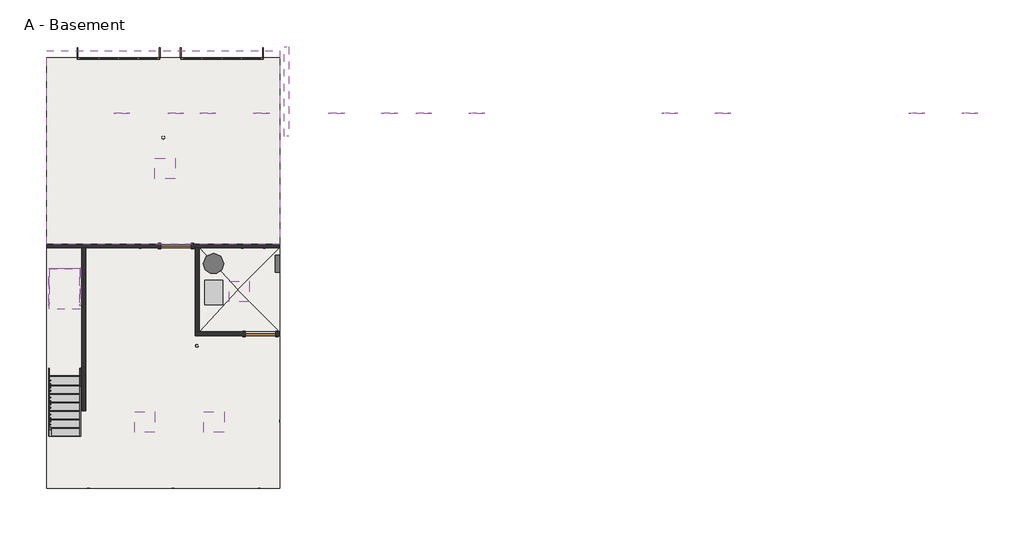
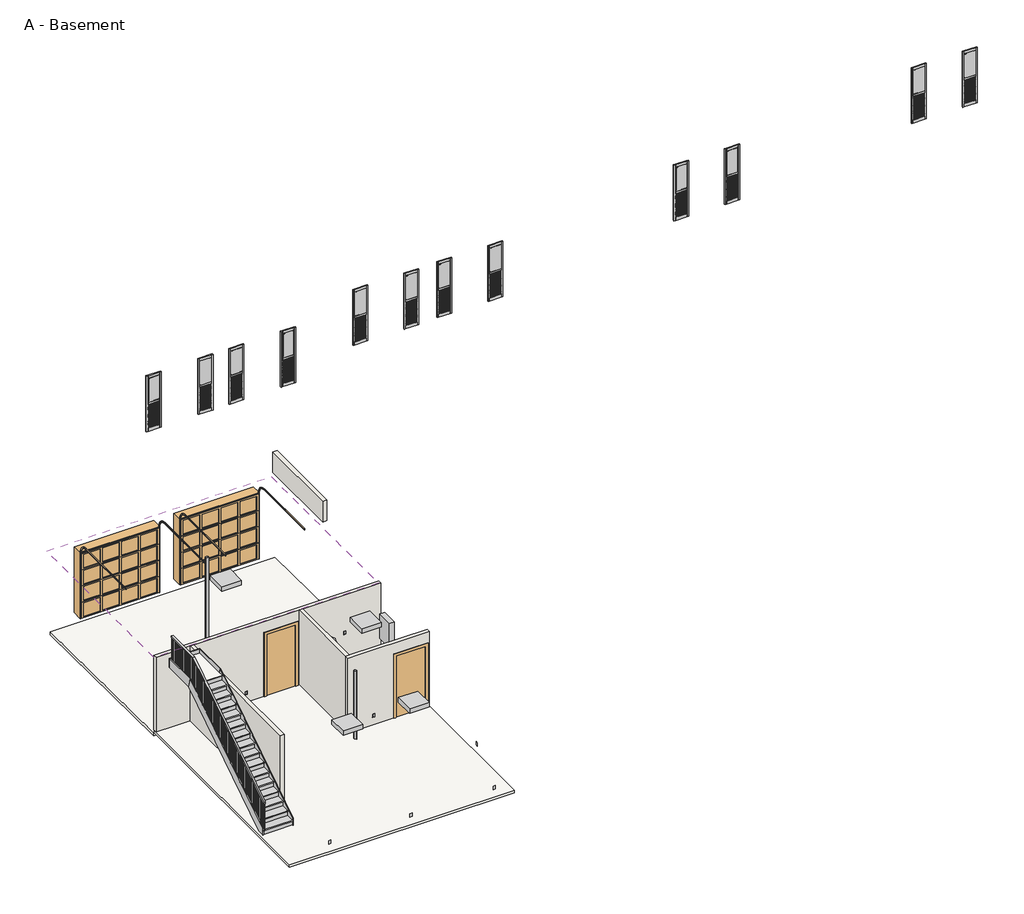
# One storey: 25 proxies, 6 columns, 5 members, 5 slabs, 5 walls, 4 doors, 4 light fixtures, 1 covering, 3 other elements.
"""IFC4 building model written with IfcOpenShell, lengths in millimetres."""

from ifc_helpers import new_model, si_unit, frame, origin, place, context, project, spatial, polyline, outline, extrude, faceted_brep, transform, mapped, element, save
from components import generic_models_8ffc68b5, generic_models_32b2cebe, proxy_a3865931, lighting_and_appliance_panelboard_208v_mlo_225_a_45642533, outlet_duplex_single_5e711ab5, outlet_duplex_single_71d20ff3, outlet_duplex_single_3b77d616, outlet_gfi_single_f183cc38, pipe_column_pipe3std_b63ba2ea, pipe_column_pipe3std_e1548283, pipe_column_pipe3std_db27e34c, pipe_column_pipe3std_637a24f6, door_7a04b6f2, door_5e62189b, water_heater_water_heater_e0cc5f81, plain_surface_lighting_fixture_2x2_120_4620b5b5, slab_c4e9b2b2, non_monolithic_landing_577eea64, stair_flight_320c33c6

model = new_model("IFC4")

# Units and contexts
model_context = context("Model", 3, world=origin())
ifc_project = project(units=[si_unit("LENGTHUNIT", "METRE", prefix="MILLI")], contexts=[model_context])

# Site, building, storey
site = spatial("IfcSite", under=ifc_project)
building = spatial("IfcBuilding", under=site)
storey = spatial("IfcBuildingStorey", under=building, Name="A - Basement", Elevation=-2787.65)

# Proxies
placement = place(None, origin())
generic_models_shape = generic_models_8ffc68b5(model_context)
generic_models_2_shape = generic_models_32b2cebe(model_context)
element("IfcBuildingElementProxy", 1, Name="rfa_clas_euro : rfa_clas_euro", ObjectType="rfa_clas_euro : rfa_clas_euro", at=placement, inside=storey, context=model_context, shape_type="MappedRepresentation", body=[
    mapped(generic_models_shape, transform((-2515.7129486, 4173.8960538, 4543.7593444), x_axis=(-1.0, 0.0, 0.0), y_axis=(0.0, 0.0, 1.0), z_axis=(0.0, 1.0, 0.0))),
    mapped(generic_models_2_shape, transform((-2515.7129486, 4173.8960538, 4543.7593444), x_axis=(-1.0, 0.0, 0.0), y_axis=(0.0, 0.0, 1.0), z_axis=(0.0, 1.0, 0.0))),
])
element("IfcBuildingElementProxy", 2, Name="rfa_clas_euro : rfa_clas_euro", ObjectType="rfa_clas_euro : rfa_clas_euro", at=placement, inside=storey, context=model_context, shape_type="MappedRepresentation", body=[
    mapped(generic_models_shape, transform((-925.0379486, 4173.8960538, 4523.2310822), x_axis=(-1.0, 0.0, 0.0), y_axis=(0.0, 0.0, 1.0), z_axis=(0.0, 1.0, 0.0))),
    mapped(generic_models_2_shape, transform((-925.0379486, 4173.8960538, 4523.2310822), x_axis=(-1.0, 0.0, 0.0), y_axis=(0.0, 0.0, 1.0), z_axis=(0.0, 1.0, 0.0))),
])
element("IfcBuildingElementProxy", 3, Name="rfa_clas_euro : rfa_clas_euro", ObjectType="rfa_clas_euro : rfa_clas_euro", at=placement, inside=storey, context=model_context, shape_type="MappedRepresentation", body=[
    mapped(generic_models_shape, transform((98.6777665, 4173.8960538, 4543.7593444), x_axis=(-1.0, 0.0, 0.0), y_axis=(0.0, 0.0, 1.0), z_axis=(0.0, 1.0, 0.0))),
    mapped(generic_models_2_shape, transform((98.6777665, 4173.8960538, 4543.7593444), x_axis=(-1.0, 0.0, 0.0), y_axis=(0.0, 0.0, 1.0), z_axis=(0.0, 1.0, 0.0))),
])
element("IfcBuildingElementProxy", 4, Name="rfa_clas_euro : rfa_clas_euro", ObjectType="rfa_clas_euro : rfa_clas_euro", at=placement, inside=storey, context=model_context, shape_type="MappedRepresentation", body=[
    mapped(generic_models_shape, transform((1689.3527665, 4173.8960538, 4523.2310822), x_axis=(-1.0, 0.0, 0.0), y_axis=(0.0, 0.0, 1.0), z_axis=(0.0, 1.0, 0.0))),
    mapped(generic_models_2_shape, transform((1689.3527665, 4173.8960538, 4523.2310822), x_axis=(-1.0, 0.0, 0.0), y_axis=(0.0, 0.0, 1.0), z_axis=(0.0, 1.0, 0.0))),
])
element("IfcBuildingElementProxy", 5, Name="rfa_clas_euro : rfa_clas_euro", ObjectType="rfa_clas_euro : rfa_clas_euro", at=placement, inside=storey, context=model_context, shape_type="MappedRepresentation", body=[
    mapped(generic_models_shape, transform((14880.573124, 4173.8960538, 5762.9593444), x_axis=(-1.0, 0.0, 0.0), y_axis=(0.0, 0.0, 1.0), z_axis=(0.0, 1.0, 0.0))),
    mapped(generic_models_2_shape, transform((14880.573124, 4173.8960538, 5762.9593444), x_axis=(-1.0, 0.0, 0.0), y_axis=(0.0, 0.0, 1.0), z_axis=(0.0, 1.0, 0.0))),
])
element("IfcBuildingElementProxy", 6, Name="rfa_clas_euro : rfa_clas_euro", ObjectType="rfa_clas_euro : rfa_clas_euro", at=placement, inside=storey, context=model_context, shape_type="MappedRepresentation", body=[
    mapped(generic_models_shape, transform((16471.248124, 4173.8960538, 5742.4310822), x_axis=(-1.0, 0.0, 0.0), y_axis=(0.0, 0.0, 1.0), z_axis=(0.0, 1.0, 0.0))),
    mapped(generic_models_2_shape, transform((16471.248124, 4173.8960538, 5742.4310822), x_axis=(-1.0, 0.0, 0.0), y_axis=(0.0, 0.0, 1.0), z_axis=(0.0, 1.0, 0.0))),
])
element("IfcBuildingElementProxy", 7, Name="rfa_clas_euro : rfa_clas_euro", ObjectType="rfa_clas_euro : rfa_clas_euro", at=placement, inside=storey, context=model_context, shape_type="MappedRepresentation", body=[
    mapped(generic_models_shape, transform((7476.473124, 4173.8960538, 5153.3593444), x_axis=(-1.0, 0.0, 0.0), y_axis=(0.0, 0.0, 1.0), z_axis=(0.0, 1.0, 0.0))),
    mapped(generic_models_2_shape, transform((7476.473124, 4173.8960538, 5153.3593444), x_axis=(-1.0, 0.0, 0.0), y_axis=(0.0, 0.0, 1.0), z_axis=(0.0, 1.0, 0.0))),
])
element("IfcBuildingElementProxy", 8, Name="rfa_clas_euro : rfa_clas_euro", ObjectType="rfa_clas_euro : rfa_clas_euro", at=placement, inside=storey, context=model_context, shape_type="MappedRepresentation", body=[
    mapped(generic_models_shape, transform((9067.148124, 4173.8960538, 5132.8310822), x_axis=(-1.0, 0.0, 0.0), y_axis=(0.0, 0.0, 1.0), z_axis=(0.0, 1.0, 0.0))),
    mapped(generic_models_2_shape, transform((9067.148124, 4173.8960538, 5132.8310822), x_axis=(-1.0, 0.0, 0.0), y_axis=(0.0, 0.0, 1.0), z_axis=(0.0, 1.0, 0.0))),
])
element("IfcBuildingElementProxy", 9, Name="rfa_clas_euro : rfa_clas_euro", ObjectType="rfa_clas_euro : rfa_clas_euro", at=placement, inside=storey, context=model_context, shape_type="MappedRepresentation", body=[
    mapped(generic_models_shape, transform((-8954.6129486, 4173.8960538, 3956.05), x_axis=(-1.0, 0.0, 0.0), y_axis=(0.0, 0.0, 1.0), z_axis=(0.0, 1.0, 0.0))),
    mapped(generic_models_2_shape, transform((-8954.6129486, 4173.8960538, 3956.05), x_axis=(-1.0, 0.0, 0.0), y_axis=(0.0, 0.0, 1.0), z_axis=(0.0, 1.0, 0.0))),
])
element("IfcBuildingElementProxy", 10, Name="rfa_clas_euro : rfa_clas_euro", ObjectType="rfa_clas_euro : rfa_clas_euro", at=placement, inside=storey, context=model_context, shape_type="MappedRepresentation", body=[
    mapped(generic_models_shape, transform((-7338.5379486, 4173.8960538, 3956.05), x_axis=(-1.0, 0.0, 0.0), y_axis=(0.0, 0.0, 1.0), z_axis=(0.0, 1.0, 0.0))),
    mapped(generic_models_2_shape, transform((-7338.5379486, 4173.8960538, 3956.05), x_axis=(-1.0, 0.0, 0.0), y_axis=(0.0, 0.0, 1.0), z_axis=(0.0, 1.0, 0.0))),
])
element("IfcBuildingElementProxy", 11, Name="rfa_clas_euro : rfa_clas_euro", ObjectType="rfa_clas_euro : rfa_clas_euro", at=placement, inside=storey, context=model_context, shape_type="MappedRepresentation", body=[
    mapped(generic_models_shape, transform((-6376.5129486, 4173.8960538, 3956.05), x_axis=(-1.0, 0.0, 0.0), y_axis=(0.0, 0.0, 1.0), z_axis=(0.0, 1.0, 0.0))),
    mapped(generic_models_2_shape, transform((-6376.5129486, 4173.8960538, 3956.05), x_axis=(-1.0, 0.0, 0.0), y_axis=(0.0, 0.0, 1.0), z_axis=(0.0, 1.0, 0.0))),
])
element("IfcBuildingElementProxy", 12, Name="rfa_clas_euro : rfa_clas_euro", ObjectType="rfa_clas_euro : rfa_clas_euro", at=placement, inside=storey, context=model_context, shape_type="MappedRepresentation", body=[
    mapped(generic_models_shape, transform((-4763.6129486, 4173.8960538, 3956.05), x_axis=(-1.0, 0.0, 0.0), y_axis=(0.0, 0.0, 1.0), z_axis=(0.0, 1.0, 0.0))),
    mapped(generic_models_2_shape, transform((-4763.6129486, 4173.8960538, 3956.05), x_axis=(-1.0, 0.0, 0.0), y_axis=(0.0, 0.0, 1.0), z_axis=(0.0, 1.0, 0.0))),
])
proxy_shape = proxy_a3865931(model_context)
element("IfcBuildingElementProxy", 13, Name="Furnace : 40\" x 21\" x 28\"", ObjectType="Furnace : 40\" x 21\" x 28\"", at=placement, inside=storey, context=model_context, shape_type="MappedRepresentation", body=[
    mapped(proxy_shape, transform((-6192.3629486, -1182.3289462, -2792.5085527), x_axis=(1.0, 0.0, 0.0), y_axis=(0.0, 1.0, 0.0), z_axis=(0.0, 0.0, 1.0))),
])
lighting_and_appliance_panelboard_208v_mlo_225_a_shape = lighting_and_appliance_panelboard_208v_mlo_225_a_45642533(model_context)
element("IfcBuildingElementProxy", 14, Name="Lighting and Appliance Panelboard - 208V MLO : 225 A", ObjectType="Lighting and Appliance Panelboard - 208V MLO : 225 A", at=placement, inside=storey, context=model_context, shape_type="MappedRepresentation", body=[
    mapped(lighting_and_appliance_panelboard_208v_mlo_225_a_shape, transform((-4211.1629486, -318.7289462, -1568.45), x_axis=(0.0, -1.0, 0.0), y_axis=(0.0, 0.0, -1.0), z_axis=(1.0, 0.0, 0.0))),
])
outlet_duplex_single_shape = outlet_duplex_single_5e711ab5(model_context)
element("IfcBuildingElementProxy", 15, Name="Outlet-Duplex : Single", ObjectType="Outlet-Duplex : Single", at=placement, inside=storey, context=model_context, shape_type="MappedRepresentation", body=[
    mapped(outlet_duplex_single_shape, transform((-10091.2629486, -3852.5039462, -2787.65), x_axis=(0.0, -1.0, 0.0), y_axis=(1.0, 0.0, 0.0), z_axis=(0.0, 0.0, 1.0))),
])
element("IfcBuildingElementProxy", 16, Name="Outlet-Duplex : Single", ObjectType="Outlet-Duplex : Single", at=placement, inside=storey, context=model_context, shape_type="MappedRepresentation", body=[
    mapped(outlet_duplex_single_shape, transform((-10091.2629486, -1547.4539462, -2787.65), x_axis=(0.0, -1.0, 0.0), y_axis=(1.0, 0.0, 0.0), z_axis=(0.0, 0.0, 1.0))),
])
element("IfcBuildingElementProxy", 17, Name="Outlet-Duplex : Single", ObjectType="Outlet-Duplex : Single", at=placement, inside=storey, context=model_context, shape_type="MappedRepresentation", body=[
    mapped(outlet_duplex_single_shape, transform((-5951.0629486, -2420.5789462, -2787.65), x_axis=(-1.0, 0.0, 0.0), y_axis=(0.0, -1.0, 0.0), z_axis=(0.0, 0.0, 1.0))),
])
element("IfcBuildingElementProxy", 18, Name="Outlet-Duplex : Single", ObjectType="Outlet-Duplex : Single", at=placement, inside=storey, context=model_context, shape_type="MappedRepresentation", body=[
    mapped(outlet_duplex_single_shape, transform((-8398.9879486, 208.3210538, -2787.65), x_axis=(-1.0, 0.0, 0.0), y_axis=(0.0, -1.0, 0.0), z_axis=(0.0, 0.0, 1.0))),
])
outlet_duplex_single_2_shape = outlet_duplex_single_71d20ff3(model_context)
element("IfcBuildingElementProxy", 19, Name="Outlet-Duplex : Single", ObjectType="Outlet-Duplex : Single", at=placement, inside=storey, context=model_context, shape_type="MappedRepresentation", body=[
    mapped(outlet_duplex_single_2_shape, transform((-9954.7379486, -7202.1289462, -2787.65), x_axis=(1.0, 0.0, 0.0), y_axis=(0.0, 1.0, 0.0), z_axis=(0.0, 0.0, 1.0))),
])
element("IfcBuildingElementProxy", 20, Name="Outlet-Duplex : Single", ObjectType="Outlet-Duplex : Single", at=placement, inside=storey, context=model_context, shape_type="MappedRepresentation", body=[
    mapped(outlet_duplex_single_2_shape, transform((-7421.0879486, -7202.1289462, -2787.65), x_axis=(1.0, 0.0, 0.0), y_axis=(0.0, 1.0, 0.0), z_axis=(0.0, 0.0, 1.0))),
])
element("IfcBuildingElementProxy", 21, Name="Outlet-Duplex : Single", ObjectType="Outlet-Duplex : Single", at=placement, inside=storey, context=model_context, shape_type="MappedRepresentation", body=[
    mapped(outlet_duplex_single_2_shape, transform((-4830.2879486, -7202.1289462, -2787.65), x_axis=(1.0, 0.0, 0.0), y_axis=(0.0, 1.0, 0.0), z_axis=(0.0, 0.0, 1.0))),
])
outlet_duplex_single_3_shape = outlet_duplex_single_3b77d616(model_context)
element("IfcBuildingElementProxy", 22, Name="Outlet-Duplex : Single", ObjectType="Outlet-Duplex : Single", at=placement, inside=storey, context=model_context, shape_type="MappedRepresentation", body=[
    mapped(outlet_duplex_single_3_shape, transform((-4084.1629486, -5033.6039462, -2787.65), x_axis=(0.0, 1.0, 0.0), y_axis=(-1.0, 0.0, 0.0), z_axis=(0.0, 0.0, 1.0))),
])
outlet_gfi_single_shape = outlet_gfi_single_f183cc38(model_context)
element("IfcBuildingElementProxy", 23, Name="Outlet-GFI : Single", ObjectType="Outlet-GFI : Single", at=placement, inside=storey, context=model_context, shape_type="MappedRepresentation", body=[
    mapped(outlet_gfi_single_shape, transform((-5338.2879486, 208.3210538, -2787.65), x_axis=(-1.0, 0.0, 0.0), y_axis=(0.0, -1.0, 0.0), z_axis=(0.0, 0.0, 1.0))),
])
element("IfcBuildingElementProxy", 24, Name="Outlet-GFI : Single", ObjectType="Outlet-GFI : Single", at=placement, inside=storey, context=model_context, shape_type="MappedRepresentation", body=[
    mapped(outlet_gfi_single_shape, transform((-4677.8879486, 208.3210538, -2787.65), x_axis=(-1.0, 0.0, 0.0), y_axis=(0.0, -1.0, 0.0), z_axis=(0.0, 0.0, 1.0))),
])
element("IfcBuildingElementProxy", 25, Name="Outlet-GFI : Single", ObjectType="Outlet-GFI : Single", at=placement, inside=storey, context=model_context, shape_type="MappedRepresentation", body=[
    mapped(outlet_gfi_single_shape, transform((-8703.7879486, 208.3210538, -2787.65), x_axis=(1.0, 0.0, 0.0), y_axis=(0.0, 1.0, 0.0), z_axis=(0.0, 0.0, 1.0))),
])

# Columns
pipe_column_pipe3std_shape = pipe_column_pipe3std_b63ba2ea(model_context)
element("IfcColumn", 26, ObjectType="Pipe-Column : Pipe3STD", at=placement, inside=storey, context=model_context, shape_type="MappedRepresentation", body=[
    mapped(pipe_column_pipe3std_shape, transform((-10091.2629486, -4154.1289462, 0.0), x_axis=(1.0, 0.0, 0.0), y_axis=(0.0, 1.0, 0.0), z_axis=(0.0, 0.0, 1.0))),
])
pipe_column_pipe3std_2_shape = pipe_column_pipe3std_e1548283(model_context)
element("IfcColumn", 27, ObjectType="Pipe-Column : Pipe3STD", at=placement, inside=storey, context=model_context, shape_type="MappedRepresentation", body=[
    mapped(pipe_column_pipe3std_2_shape, transform((-6700.3629486, -2782.5289462, 0.0), x_axis=(1.0, 0.0, 0.0), y_axis=(0.0, 1.0, 0.0), z_axis=(0.0, 0.0, 1.0))),
])
element("IfcColumn", 28, ObjectType="Pipe-Column : Pipe3STD", at=placement, inside=storey, context=model_context, shape_type="MappedRepresentation", body=[
    mapped(pipe_column_pipe3std_2_shape, transform((-10091.2629486, -2782.5289462, 0.0), x_axis=(1.0, 0.0, 0.0), y_axis=(0.0, 1.0, 0.0), z_axis=(0.0, 0.0, 1.0))),
])
pipe_column_pipe3std_3_shape = pipe_column_pipe3std_db27e34c(model_context)
element("IfcColumn", 29, ObjectType="Pipe-Column : Pipe3STD", at=placement, inside=storey, context=model_context, shape_type="MappedRepresentation", body=[
    mapped(pipe_column_pipe3std_3_shape, transform((-10091.2629486, 201.9710538, 0.0), x_axis=(1.0, 0.0, 0.0), y_axis=(0.0, 1.0, 0.0), z_axis=(0.0, 0.0, 1.0))),
])
element("IfcColumn", 30, ObjectType="Pipe-Column : Pipe3STD", at=placement, inside=storey, context=model_context, shape_type="MappedRepresentation", body=[
    mapped(pipe_column_pipe3std_3_shape, transform((-6700.3629486, 201.9710538, 0.0), x_axis=(1.0, 0.0, 0.0), y_axis=(0.0, 1.0, 0.0), z_axis=(0.0, 0.0, 1.0))),
])
pipe_column_pipe3std_4_shape = pipe_column_pipe3std_637a24f6(model_context)
element("IfcColumn", 31, ObjectType="Pipe-Column : Pipe3STD", at=placement, inside=storey, context=model_context, shape_type="MappedRepresentation", body=[
    mapped(pipe_column_pipe3std_4_shape, transform((-7710.0129486, 3462.6960538, 0.0), x_axis=(1.0, 0.0, 0.0), y_axis=(0.0, 1.0, 0.0), z_axis=(0.0, 0.0, 1.0))),
])

# Covering
element("IfcCovering", 32, ObjectType="GWB on Furring", at=placement, inside=storey, context=model_context, shape_type="SweptSolid", body=[
    extrude(outline(polyline([(-11208.8629486, 265.4710538), (-11208.8629486, 6056.6710538), (-4211.1629486, 6056.6710538), (-4211.1629486, 265.4710538), (-11208.8629486, 265.4710538)])), frame((0.0, 0.0, -400.05), z_axis=(0.0, 0.0, 1.0), x_axis=(1.0, 0.0, 0.0)), (0.0, 0.0, 1.0), 31.75),
])

# Doors
door_shape = door_7a04b6f2(model_context)
element("IfcDoor", 33, ObjectType="Door-Garage-Embossed_Panel : 96\" x 84\"", at=placement, inside=storey, context=model_context, shape_type="MappedRepresentation", body=[
    mapped(door_shape, transform((-9049.8629486, 6009.0460538, -2813.05), x_axis=(1.0, 0.0, 0.0), y_axis=(0.0, 1.0, 0.0), z_axis=(0.0, 0.0, 1.0))),
])
element("IfcDoor", 34, ObjectType="Door-Garage-Embossed_Panel : 96\" x 84\"", at=placement, inside=storey, context=model_context, shape_type="MappedRepresentation", body=[
    mapped(door_shape, transform((-5951.0629486, 6009.0460538, -2787.65), x_axis=(1.0, 0.0, 0.0), y_axis=(0.0, 1.0, 0.0), z_axis=(0.0, 0.0, 1.0))),
])
door_2_shape = door_5e62189b(model_context)
element("IfcDoor", 35, ObjectType="Single-Flush : 36\" x 80\"", at=placement, inside=storey, context=model_context, shape_type="MappedRepresentation", body=[
    mapped(door_2_shape, transform((-7322.6629486, 208.3210538, -2787.65), x_axis=(1.0, 0.0, 0.0), y_axis=(0.0, 1.0, 0.0), z_axis=(0.0, 0.0, 1.0))),
])
element("IfcDoor", 36, ObjectType="Single-Flush : 36\" x 80\"", at=placement, inside=storey, context=model_context, shape_type="MappedRepresentation", body=[
    mapped(door_2_shape, transform((-4795.3629486, -2420.5789462, -2787.65), x_axis=(1.0, 0.0, 0.0), y_axis=(0.0, 1.0, 0.0), z_axis=(0.0, 0.0, 1.0))),
])

# Flow terminal
water_heater_water_heater_shape = water_heater_water_heater_e0cc5f81(model_context)
element("IfcFlowTerminal", 37, ObjectType="Water Heater : Water Heater", at=placement, inside=storey, context=model_context, shape_type="MappedRepresentation", body=[
    mapped(water_heater_water_heater_shape, transform((-6200.7310135, -318.7289462, -2792.4170866), x_axis=(1.0, 0.0, 0.0), y_axis=(0.0, 1.0, 0.0), z_axis=(0.0, 0.0, 1.0))),
])

# Light fixtures
plain_surface_lighting_fixture_2x2_120_shape = plain_surface_lighting_fixture_2x2_120_4620b5b5(model_context)
element("IfcLightFixture", 38, ObjectType="Plain Surface Lighting Fixture : 2x2 - 120", at=placement, inside=storey, context=model_context, shape_type="MappedRepresentation", body=[
    mapped(plain_surface_lighting_fixture_2x2_120_shape, transform((-7628.4108132, -4634.8076457, -320.675), x_axis=(1.0, 0.0, 0.0), y_axis=(0.0, -1.0, 0.0), z_axis=(0.0, 0.0, -1.0))),
])
element("IfcLightFixture", 39, ObjectType="Plain Surface Lighting Fixture : 2x2 - 120", at=placement, inside=storey, context=model_context, shape_type="MappedRepresentation", body=[
    mapped(plain_surface_lighting_fixture_2x2_120_shape, transform((-5558.3108132, -4634.8076457, -320.675), x_axis=(1.0, 0.0, 0.0), y_axis=(0.0, -1.0, 0.0), z_axis=(0.0, 0.0, -1.0))),
])
element("IfcLightFixture", 40, ObjectType="Plain Surface Lighting Fixture : 2x2 - 120", at=placement, inside=storey, context=model_context, shape_type="MappedRepresentation", body=[
    mapped(plain_surface_lighting_fixture_2x2_120_shape, transform((-4796.3108132, -723.2076457, -320.675), x_axis=(1.0, 0.0, 0.0), y_axis=(0.0, -1.0, 0.0), z_axis=(0.0, 0.0, -1.0))),
])
element("IfcLightFixture", 41, ObjectType="Plain Surface Lighting Fixture : 2x2 - 120", at=placement, inside=storey, context=model_context, shape_type="MappedRepresentation", body=[
    mapped(plain_surface_lighting_fixture_2x2_120_shape, transform((-7018.8108132, 2972.4923543, -400.05), x_axis=(1.0, 0.0, 0.0), y_axis=(0.0, -1.0, 0.0), z_axis=(0.0, 0.0, -1.0))),
])

# Members
element("IfcMember", 42, ObjectType="Stringer - Paint - 3/4\" Width", at=placement, inside=storey, context=model_context, shape_type="SweptSolid", body=[
    extrude(outline(polyline([(-5500.3289462, -2787.65), (-5500.3289462, -2554.2832083), (-1580.7789382, -12.7), (-1490.6062153, -317.5), (-5299.9941671, -2787.65), (-5500.3289462, -2787.65)])), frame((-11142.1879486, 0.0, 0.0), z_axis=(1.0, 0.0, 0.0), x_axis=(0.0, 1.0, 0.0)), (0.0, 0.0, 1.0), 19.05),
])
element("IfcMember", 43, ObjectType="Stringer - Paint - 3/4\" Width", at=placement, inside=storey, context=model_context, shape_type="SweptSolid", body=[
    extrude(outline(polyline([(-5500.3289462, -2787.65), (-5500.3289462, -2554.2832083), (-1580.7789382, -12.7), (-1490.6062153, -317.5), (-5299.9941671, -2787.65), (-5500.3289462, -2787.65)])), frame((-10208.7379486, 0.0, 0.0), z_axis=(1.0, 0.0, 0.0), x_axis=(0.0, 1.0, 0.0)), (0.0, 0.0, 1.0), 19.05),
])
element("IfcMember", 44, ObjectType="Stringer - Paint - 3/4\" Width", at=placement, inside=storey, context=model_context, shape_type="SweptSolid", body=[
    extrude(outline(polyline([(-10189.6879486, -452.0789462), (-10208.7379486, -471.1289462), (-11123.1379486, -471.1289462), (-11142.1879486, -452.0789462), (-10189.6879486, -452.0789462)])), frame((0.0, 0.0, -317.5), z_axis=(0.0, 0.0, 1.0), x_axis=(1.0, 0.0, 0.0)), (0.0, 0.0, 1.0), 304.8),
])
element("IfcMember", 45, ObjectType="Stringer - Paint - 3/4\" Width", at=placement, inside=storey, context=model_context, shape_type="Brep", body=[
    faceted_brep([(-11123.1379486, -471.1289462, -12.7), (-11142.1879486, -452.0789462, -12.7), (-11142.1879486, -1580.7789382, -12.7), (-11123.1379486, -1580.7789382, -12.7), (-11123.1379486, -471.1289462, -317.5), (-11123.1379486, -1490.6062153, -317.5), (-11142.1879486, -452.0789462, -317.5), (-11142.1879486, -1490.6062153, -317.5)], [[[0, 1, 2, 3]], [[4, 0, 3, 5]], [[6, 4, 5, 7]], [[1, 6, 7, 2]], [[1, 0, 4, 6]], [[2, 7, 5, 3]]]),
])
element("IfcMember", 46, ObjectType="Stringer - Paint - 3/4\" Width", at=placement, inside=storey, context=model_context, shape_type="Brep", body=[
    faceted_brep([(-10208.7379486, -1580.7789382, -12.7), (-10189.6879486, -1580.7789382, -12.7), (-10189.6879486, -452.0789462, -12.7), (-10208.7379486, -471.1289462, -12.7), (-10208.7379486, -1490.6062153, -317.5), (-10208.7379486, -471.1289462, -317.5), (-10189.6879486, -1490.6062153, -317.5), (-10189.6879486, -452.0789462, -317.5)], [[[0, 1, 2, 3]], [[4, 0, 3, 5]], [[6, 4, 5, 7]], [[1, 6, 7, 2]], [[1, 0, 4, 6]], [[2, 7, 5, 3]]]),
])

# Railing
element("IfcRailing", 47, ObjectType="Handrail - Rectangular", at=placement, inside=storey, context=model_context, shape_type="SolidModel", body=[
    faceted_brep([(-11123.1379486, -531.4539462, 762.0), (-11072.3379486, -531.4539462, 762.0), (-11072.3379486, -531.4539462, 711.2), (-11123.1379486, -531.4539462, 711.2), (-11123.1379486, -1675.3001591, 711.2), (-11123.1379486, -1690.3289462, 762.0), (-11072.3379486, -1675.3001591, 711.2), (-11072.3379486, -1690.3289462, 762.0), (-11123.1379486, -5500.3289462, -1708.546875), (-11123.1379486, -5500.3289462, -1769.0921042), (-11072.3379486, -5500.3289462, -1769.0921042), (-11072.3379486, -5500.3289462, -1708.546875)], [[[0, 1, 2, 3]], [[4, 5, 0, 3]], [[6, 4, 3, 2]], [[7, 6, 2, 1]], [[5, 7, 1, 0]], [[8, 9, 10, 11]], [[9, 8, 5, 4]], [[10, 9, 4, 6]], [[11, 10, 6, 7]], [[8, 11, 7, 5]]]),
    extrude(outline(polyline([(-5459.0539462, -1742.3278464), (-5440.0039462, -1729.975112), (-5440.0039462, -2622.946875), (-5459.0539462, -2622.946875), (-5459.0539462, -1742.3278464)])), frame((-11107.2629486, 0.0, 0.0), z_axis=(1.0, 0.0, 0.0), x_axis=(0.0, 1.0, 0.0)), (0.0, 0.0, 1.0), 19.05),
    extrude(outline(polyline([(-5357.4539462, -1676.4465964), (-5338.4039462, -1664.093862), (-5338.4039462, -2622.946875), (-5357.4539462, -2622.946875), (-5357.4539462, -1676.4465964)])), frame((-11107.2629486, 0.0, 0.0), z_axis=(1.0, 0.0, 0.0), x_axis=(0.0, 1.0, 0.0)), (0.0, 0.0, 1.0), 19.05),
    extrude(outline(polyline([(-5255.8539462, -1610.5653464), (-5236.8039462, -1598.212612), (-5236.8039462, -2458.24375), (-5255.8539462, -2458.24375), (-5255.8539462, -1610.5653464)])), frame((-11107.2629486, 0.0, 0.0), z_axis=(1.0, 0.0, 0.0), x_axis=(0.0, 1.0, 0.0)), (0.0, 0.0, 1.0), 19.05),
    extrude(outline(polyline([(-5154.2539462, -1544.6840964), (-5135.2039462, -1532.331362), (-5135.2039462, -2458.24375), (-5154.2539462, -2458.24375), (-5154.2539462, -1544.6840964)])), frame((-11107.2629486, 0.0, 0.0), z_axis=(1.0, 0.0, 0.0), x_axis=(0.0, 1.0, 0.0)), (0.0, 0.0, 1.0), 19.05),
    extrude(outline(polyline([(-5052.6539462, -1478.8028464), (-5033.6039462, -1466.450112), (-5033.6039462, -2458.24375), (-5052.6539462, -2458.24375), (-5052.6539462, -1478.8028464)])), frame((-11107.2629486, 0.0, 0.0), z_axis=(1.0, 0.0, 0.0), x_axis=(0.0, 1.0, 0.0)), (0.0, 0.0, 1.0), 19.05),
    extrude(outline(polyline([(-4951.0539462, -1412.9215964), (-4932.0039462, -1400.568862), (-4932.0039462, -2293.540625), (-4951.0539462, -2293.540625), (-4951.0539462, -1412.9215964)])), frame((-11107.2629486, 0.0, 0.0), z_axis=(1.0, 0.0, 0.0), x_axis=(0.0, 1.0, 0.0)), (0.0, 0.0, 1.0), 19.05),
    extrude(outline(polyline([(-4849.4539462, -1347.0403464), (-4830.4039462, -1334.687612), (-4830.4039462, -2293.540625), (-4849.4539462, -2293.540625), (-4849.4539462, -1347.0403464)])), frame((-11107.2629486, 0.0, 0.0), z_axis=(1.0, 0.0, 0.0), x_axis=(0.0, 1.0, 0.0)), (0.0, 0.0, 1.0), 19.05),
    extrude(outline(polyline([(-4747.8539462, -1281.1590964), (-4728.8039462, -1268.806362), (-4728.8039462, -2128.8375), (-4747.8539462, -2128.8375), (-4747.8539462, -1281.1590964)])), frame((-11107.2629486, 0.0, 0.0), z_axis=(1.0, 0.0, 0.0), x_axis=(0.0, 1.0, 0.0)), (0.0, 0.0, 1.0), 19.05),
    extrude(outline(polyline([(-4646.2539462, -1215.2778464), (-4627.2039462, -1202.925112), (-4627.2039462, -2128.8375), (-4646.2539462, -2128.8375), (-4646.2539462, -1215.2778464)])), frame((-11107.2629486, 0.0, 0.0), z_axis=(1.0, 0.0, 0.0), x_axis=(0.0, 1.0, 0.0)), (0.0, 0.0, 1.0), 19.05),
    extrude(outline(polyline([(-4544.6539462, -1149.3965964), (-4525.6039462, -1137.043862), (-4525.6039462, -2128.8375), (-4544.6539462, -2128.8375), (-4544.6539462, -1149.3965964)])), frame((-11107.2629486, 0.0, 0.0), z_axis=(1.0, 0.0, 0.0), x_axis=(0.0, 1.0, 0.0)), (0.0, 0.0, 1.0), 19.05),
    extrude(outline(polyline([(-4443.0539462, -1083.5153464), (-4424.0039462, -1071.162612), (-4424.0039462, -1964.134375), (-4443.0539462, -1964.134375), (-4443.0539462, -1083.5153464)])), frame((-11107.2629486, 0.0, 0.0), z_axis=(1.0, 0.0, 0.0), x_axis=(0.0, 1.0, 0.0)), (0.0, 0.0, 1.0), 19.05),
    extrude(outline(polyline([(-4341.4539462, -1017.6340964), (-4322.4039462, -1005.281362), (-4322.4039462, -1964.134375), (-4341.4539462, -1964.134375), (-4341.4539462, -1017.6340964)])), frame((-11107.2629486, 0.0, 0.0), z_axis=(1.0, 0.0, 0.0), x_axis=(0.0, 1.0, 0.0)), (0.0, 0.0, 1.0), 19.05),
    extrude(outline(polyline([(-4239.8539462, -951.7528464), (-4220.8039462, -939.400112), (-4220.8039462, -1799.43125), (-4239.8539462, -1799.43125), (-4239.8539462, -951.7528464)])), frame((-11107.2629486, 0.0, 0.0), z_axis=(1.0, 0.0, 0.0), x_axis=(0.0, 1.0, 0.0)), (0.0, 0.0, 1.0), 19.05),
    extrude(outline(polyline([(-4138.2539462, -885.8715964), (-4119.2039462, -873.518862), (-4119.2039462, -1799.43125), (-4138.2539462, -1799.43125), (-4138.2539462, -885.8715964)])), frame((-11107.2629486, 0.0, 0.0), z_axis=(1.0, 0.0, 0.0), x_axis=(0.0, 1.0, 0.0)), (0.0, 0.0, 1.0), 19.05),
    extrude(outline(polyline([(-4036.6539462, -819.9903464), (-4017.6039462, -807.637612), (-4017.6039462, -1799.43125), (-4036.6539462, -1799.43125), (-4036.6539462, -819.9903464)])), frame((-11107.2629486, 0.0, 0.0), z_axis=(1.0, 0.0, 0.0), x_axis=(0.0, 1.0, 0.0)), (0.0, 0.0, 1.0), 19.05),
    extrude(outline(polyline([(-3935.0539462, -754.1090964), (-3916.0039462, -741.756362), (-3916.0039462, -1634.728125), (-3935.0539462, -1634.728125), (-3935.0539462, -754.1090964)])), frame((-11107.2629486, 0.0, 0.0), z_axis=(1.0, 0.0, 0.0), x_axis=(0.0, 1.0, 0.0)), (0.0, 0.0, 1.0), 19.05),
    extrude(outline(polyline([(-3833.4539462, -688.2278464), (-3814.4039462, -675.875112), (-3814.4039462, -1634.728125), (-3833.4539462, -1634.728125), (-3833.4539462, -688.2278464)])), frame((-11107.2629486, 0.0, 0.0), z_axis=(1.0, 0.0, 0.0), x_axis=(0.0, 1.0, 0.0)), (0.0, 0.0, 1.0), 19.05),
    extrude(outline(polyline([(-3731.8539462, -622.3465964), (-3712.8039462, -609.993862), (-3712.8039462, -1470.025), (-3731.8539462, -1470.025), (-3731.8539462, -622.3465964)])), frame((-11107.2629486, 0.0, 0.0), z_axis=(1.0, 0.0, 0.0), x_axis=(0.0, 1.0, 0.0)), (0.0, 0.0, 1.0), 19.05),
    extrude(outline(polyline([(-3630.2539462, -556.4653464), (-3611.2039462, -544.112612), (-3611.2039462, -1470.025), (-3630.2539462, -1470.025), (-3630.2539462, -556.4653464)])), frame((-11107.2629486, 0.0, 0.0), z_axis=(1.0, 0.0, 0.0), x_axis=(0.0, 1.0, 0.0)), (0.0, 0.0, 1.0), 19.05),
    extrude(outline(polyline([(-3528.6539462, -490.5840964), (-3509.6039462, -478.231362), (-3509.6039462, -1470.025), (-3528.6539462, -1470.025), (-3528.6539462, -490.5840964)])), frame((-11107.2629486, 0.0, 0.0), z_axis=(1.0, 0.0, 0.0), x_axis=(0.0, 1.0, 0.0)), (0.0, 0.0, 1.0), 19.05),
    extrude(outline(polyline([(-3427.0539462, -424.7028464), (-3408.0039462, -412.350112), (-3408.0039462, -1305.321875), (-3427.0539462, -1305.321875), (-3427.0539462, -424.7028464)])), frame((-11107.2629486, 0.0, 0.0), z_axis=(1.0, 0.0, 0.0), x_axis=(0.0, 1.0, 0.0)), (0.0, 0.0, 1.0), 19.05),
    extrude(outline(polyline([(-3325.4539462, -358.8215964), (-3306.4039462, -346.468862), (-3306.4039462, -1305.321875), (-3325.4539462, -1305.321875), (-3325.4539462, -358.8215964)])), frame((-11107.2629486, 0.0, 0.0), z_axis=(1.0, 0.0, 0.0), x_axis=(0.0, 1.0, 0.0)), (0.0, 0.0, 1.0), 19.05),
    extrude(outline(polyline([(-3223.8539462, -292.9403464), (-3204.8039462, -280.587612), (-3204.8039462, -1140.61875), (-3223.8539462, -1140.61875), (-3223.8539462, -292.9403464)])), frame((-11107.2629486, 0.0, 0.0), z_axis=(1.0, 0.0, 0.0), x_axis=(0.0, 1.0, 0.0)), (0.0, 0.0, 1.0), 19.05),
    extrude(outline(polyline([(-3122.2539462, -227.0590964), (-3103.2039462, -214.706362), (-3103.2039462, -1140.61875), (-3122.2539462, -1140.61875), (-3122.2539462, -227.0590964)])), frame((-11107.2629486, 0.0, 0.0), z_axis=(1.0, 0.0, 0.0), x_axis=(0.0, 1.0, 0.0)), (0.0, 0.0, 1.0), 19.05),
    extrude(outline(polyline([(-3020.6539462, -161.1778464), (-3001.6039462, -148.825112), (-3001.6039462, -1140.61875), (-3020.6539462, -1140.61875), (-3020.6539462, -161.1778464)])), frame((-11107.2629486, 0.0, 0.0), z_axis=(1.0, 0.0, 0.0), x_axis=(0.0, 1.0, 0.0)), (0.0, 0.0, 1.0), 19.05),
    extrude(outline(polyline([(-2919.0539462, -95.2965964), (-2900.0039462, -82.943862), (-2900.0039462, -975.915625), (-2919.0539462, -975.915625), (-2919.0539462, -95.2965964)])), frame((-11107.2629486, 0.0, 0.0), z_axis=(1.0, 0.0, 0.0), x_axis=(0.0, 1.0, 0.0)), (0.0, 0.0, 1.0), 19.05),
    extrude(outline(polyline([(-2817.4539462, -29.4153464), (-2798.4039462, -17.062612), (-2798.4039462, -975.915625), (-2817.4539462, -975.915625), (-2817.4539462, -29.4153464)])), frame((-11107.2629486, 0.0, 0.0), z_axis=(1.0, 0.0, 0.0), x_axis=(0.0, 1.0, 0.0)), (0.0, 0.0, 1.0), 19.05),
    extrude(outline(polyline([(-2715.8539462, 36.4659036), (-2696.8039462, 48.818638), (-2696.8039462, -811.2125), (-2715.8539462, -811.2125), (-2715.8539462, 36.4659036)])), frame((-11107.2629486, 0.0, 0.0), z_axis=(1.0, 0.0, 0.0), x_axis=(0.0, 1.0, 0.0)), (0.0, 0.0, 1.0), 19.05),
    extrude(outline(polyline([(-2614.2539462, 102.3471536), (-2595.2039462, 114.699888), (-2595.2039462, -811.2125), (-2614.2539462, -811.2125), (-2614.2539462, 102.3471536)])), frame((-11107.2629486, 0.0, 0.0), z_axis=(1.0, 0.0, 0.0), x_axis=(0.0, 1.0, 0.0)), (0.0, 0.0, 1.0), 19.05),
    extrude(outline(polyline([(-2512.6539462, 168.2284036), (-2493.6039462, 180.581138), (-2493.6039462, -811.2125), (-2512.6539462, -811.2125), (-2512.6539462, 168.2284036)])), frame((-11107.2629486, 0.0, 0.0), z_axis=(1.0, 0.0, 0.0), x_axis=(0.0, 1.0, 0.0)), (0.0, 0.0, 1.0), 19.05),
    extrude(outline(polyline([(-2411.0539462, 234.1096536), (-2392.0039462, 246.462388), (-2392.0039462, -646.509375), (-2411.0539462, -646.509375), (-2411.0539462, 234.1096536)])), frame((-11107.2629486, 0.0, 0.0), z_axis=(1.0, 0.0, 0.0), x_axis=(0.0, 1.0, 0.0)), (0.0, 0.0, 1.0), 19.05),
    extrude(outline(polyline([(-2309.4539462, 299.9909036), (-2290.4039462, 312.343638), (-2290.4039462, -646.509375), (-2309.4539462, -646.509375), (-2309.4539462, 299.9909036)])), frame((-11107.2629486, 0.0, 0.0), z_axis=(1.0, 0.0, 0.0), x_axis=(0.0, 1.0, 0.0)), (0.0, 0.0, 1.0), 19.05),
    extrude(outline(polyline([(-2207.8539462, 365.8721536), (-2188.8039462, 378.224888), (-2188.8039462, -481.80625), (-2207.8539462, -481.80625), (-2207.8539462, 365.8721536)])), frame((-11107.2629486, 0.0, 0.0), z_axis=(1.0, 0.0, 0.0), x_axis=(0.0, 1.0, 0.0)), (0.0, 0.0, 1.0), 19.05),
    extrude(outline(polyline([(-2106.2539462, 431.7534036), (-2087.2039462, 444.106138), (-2087.2039462, -481.80625), (-2106.2539462, -481.80625), (-2106.2539462, 431.7534036)])), frame((-11107.2629486, 0.0, 0.0), z_axis=(1.0, 0.0, 0.0), x_axis=(0.0, 1.0, 0.0)), (0.0, 0.0, 1.0), 19.05),
    extrude(outline(polyline([(-2004.6539462, 497.6346536), (-1985.6039462, 509.987388), (-1985.6039462, -481.80625), (-2004.6539462, -481.80625), (-2004.6539462, 497.6346536)])), frame((-11107.2629486, 0.0, 0.0), z_axis=(1.0, 0.0, 0.0), x_axis=(0.0, 1.0, 0.0)), (0.0, 0.0, 1.0), 19.05),
    extrude(outline(polyline([(-1903.0539462, 563.5159036), (-1884.0039462, 575.868638), (-1884.0039462, -317.103125), (-1903.0539462, -317.103125), (-1903.0539462, 563.5159036)])), frame((-11107.2629486, 0.0, 0.0), z_axis=(1.0, 0.0, 0.0), x_axis=(0.0, 1.0, 0.0)), (0.0, 0.0, 1.0), 19.05),
    extrude(outline(polyline([(-1801.4539462, 629.3971536), (-1782.4039462, 641.749888), (-1782.4039462, -317.103125), (-1801.4539462, -317.103125), (-1801.4539462, 629.3971536)])), frame((-11107.2629486, 0.0, 0.0), z_axis=(1.0, 0.0, 0.0), x_axis=(0.0, 1.0, 0.0)), (0.0, 0.0, 1.0), 19.05),
    extrude(outline(polyline([(-11107.2629486, -1639.5289462), (-11088.2129486, -1639.5289462), (-11088.2129486, -1658.5789462), (-11107.2629486, -1658.5789462), (-11107.2629486, -1639.5289462)])), frame((0.0, 0.0, -152.4), z_axis=(0.0, 0.0, 1.0), x_axis=(1.0, 0.0, 0.0)), (0.0, 0.0, 1.0), 863.6),
    extrude(outline(polyline([(-11107.2629486, -1537.9289462), (-11088.2129486, -1537.9289462), (-11088.2129486, -1556.9789462), (-11107.2629486, -1556.9789462), (-11107.2629486, -1537.9289462)])), frame((0.0, 0.0, -152.4), z_axis=(0.0, 0.0, 1.0), x_axis=(1.0, 0.0, 0.0)), (0.0, 0.0, 1.0), 863.6),
    extrude(outline(polyline([(-11107.2629486, -1436.3289462), (-11088.2129486, -1436.3289462), (-11088.2129486, -1455.3789462), (-11107.2629486, -1455.3789462), (-11107.2629486, -1436.3289462)])), frame((0.0, 0.0, -152.4), z_axis=(0.0, 0.0, 1.0), x_axis=(1.0, 0.0, 0.0)), (0.0, 0.0, 1.0), 863.6),
    extrude(outline(polyline([(-11107.2629486, -1334.7289462), (-11088.2129486, -1334.7289462), (-11088.2129486, -1353.7789462), (-11107.2629486, -1353.7789462), (-11107.2629486, -1334.7289462)])), frame((0.0, 0.0, -152.4), z_axis=(0.0, 0.0, 1.0), x_axis=(1.0, 0.0, 0.0)), (0.0, 0.0, 1.0), 863.6),
    extrude(outline(polyline([(-11107.2629486, -1233.1289462), (-11088.2129486, -1233.1289462), (-11088.2129486, -1252.1789462), (-11107.2629486, -1252.1789462), (-11107.2629486, -1233.1289462)])), frame((0.0, 0.0, -152.4), z_axis=(0.0, 0.0, 1.0), x_axis=(1.0, 0.0, 0.0)), (0.0, 0.0, 1.0), 863.6),
    extrude(outline(polyline([(-11107.2629486, -1131.5289462), (-11088.2129486, -1131.5289462), (-11088.2129486, -1150.5789462), (-11107.2629486, -1150.5789462), (-11107.2629486, -1131.5289462)])), frame((0.0, 0.0, -152.4), z_axis=(0.0, 0.0, 1.0), x_axis=(1.0, 0.0, 0.0)), (0.0, 0.0, 1.0), 863.6),
    extrude(outline(polyline([(-11107.2629486, -1029.9289462), (-11088.2129486, -1029.9289462), (-11088.2129486, -1048.9789462), (-11107.2629486, -1048.9789462), (-11107.2629486, -1029.9289462)])), frame((0.0, 0.0, -152.4), z_axis=(0.0, 0.0, 1.0), x_axis=(1.0, 0.0, 0.0)), (0.0, 0.0, 1.0), 863.6),
    extrude(outline(polyline([(-11107.2629486, -928.3289462), (-11088.2129486, -928.3289462), (-11088.2129486, -947.3789462), (-11107.2629486, -947.3789462), (-11107.2629486, -928.3289462)])), frame((0.0, 0.0, -152.4), z_axis=(0.0, 0.0, 1.0), x_axis=(1.0, 0.0, 0.0)), (0.0, 0.0, 1.0), 863.6),
    extrude(outline(polyline([(-11107.2629486, -826.7289462), (-11088.2129486, -826.7289462), (-11088.2129486, -845.7789462), (-11107.2629486, -845.7789462), (-11107.2629486, -826.7289462)])), frame((0.0, 0.0, -152.4), z_axis=(0.0, 0.0, 1.0), x_axis=(1.0, 0.0, 0.0)), (0.0, 0.0, 1.0), 863.6),
    extrude(outline(polyline([(-11107.2629486, -725.1289462), (-11088.2129486, -725.1289462), (-11088.2129486, -744.1789462), (-11107.2629486, -744.1789462), (-11107.2629486, -725.1289462)])), frame((0.0, 0.0, -152.4), z_axis=(0.0, 0.0, 1.0), x_axis=(1.0, 0.0, 0.0)), (0.0, 0.0, 1.0), 863.6),
    extrude(outline(polyline([(-11107.2629486, -623.5289462), (-11088.2129486, -623.5289462), (-11088.2129486, -642.5789462), (-11107.2629486, -642.5789462), (-11107.2629486, -623.5289462)])), frame((0.0, 0.0, -152.4), z_axis=(0.0, 0.0, 1.0), x_axis=(1.0, 0.0, 0.0)), (0.0, 0.0, 1.0), 863.6),
    extrude(outline(polyline([(-11107.2629486, -1680.8039462), (-11088.2129486, -1680.8039462), (-11088.2129486, -1699.8539462), (-11107.2629486, -1699.8539462), (-11107.2629486, -1680.8039462)])), frame((0.0, 0.0, -152.4), z_axis=(0.0, 0.0, 1.0), x_axis=(1.0, 0.0, 0.0)), (0.0, 0.0, 1.0), 863.6),
    extrude(outline(polyline([(-5500.3289462, -1769.0921042), (-5481.2789462, -1756.7393698), (-5481.2789462, -2622.946875), (-5500.3289462, -2622.946875), (-5500.3289462, -1769.0921042)])), frame((-11107.2629486, 0.0, 0.0), z_axis=(1.0, 0.0, 0.0), x_axis=(0.0, 1.0, 0.0)), (0.0, 0.0, 1.0), 19.05),
    extrude(outline(polyline([(-11107.2629486, -531.4539462), (-11088.2129486, -531.4539462), (-11088.2129486, -550.5039462), (-11107.2629486, -550.5039462), (-11107.2629486, -531.4539462)])), frame((0.0, 0.0, -152.4), z_axis=(0.0, 0.0, 1.0), x_axis=(1.0, 0.0, 0.0)), (0.0, 0.0, 1.0), 863.6),
])

# Slabs
element("IfcSlab", 48, ObjectType="Concrete Slab - 3 1/2\"", at=placement, inside=storey, context=model_context, shape_type="SweptSolid", body=[
    extrude(outline(polyline([(-4211.1629486, 252.7710538), (-4211.1629486, 163.8710538), (-6636.8629486, 163.8710538), (-6636.8629486, -2363.4289462), (-4211.1629486, -2363.4289462), (-4211.1629486, -7049.7289462), (-11208.8629486, -7049.7289462), (-11208.8629486, 252.7710538), (-4211.1629486, 252.7710538)])), frame((0.0, 0.0, -2876.55), z_axis=(0.0, 0.0, 1.0), x_axis=(1.0, 0.0, 0.0)), (0.0, 0.0, 1.0), 88.9),
])
element("IfcSlab", 49, ObjectType="Concrete Slab - 3 1/2\"", at=placement, inside=storey, context=model_context, shape_type="Brep", body=[
    faceted_brep([(-4211.1629486, 151.1710538, -2876.55), (-4211.1629486, -2363.4289462, -2876.55), (-6636.8629486, -2363.4289462, -2876.55), (-6636.8629486, 151.1710538, -2876.55), (-4211.1629486, 151.1710538, -2787.65), (-4211.1629486, -2363.4289462, -2787.65), (-6636.8629486, -2363.4289462, -2787.65), (-6636.8629486, 151.1710538, -2787.65), (-5474.96345, -1100.6899782, -2800.35)], [[[0, 1, 2, 3]], [[1, 0, 4, 5]], [[2, 1, 5, 6]], [[3, 2, 6, 7]], [[0, 3, 7, 4]], [[7, 6, 8]], [[5, 4, 8]], [[6, 5, 8]], [[7, 8, 4]]]),
])
element("IfcSlab", 50, ObjectType="Concrete Slab - 4\"", at=placement, inside=storey, context=model_context, shape_type="SweptSolid", body=[
    extrude(outline(polyline([(5853.4710538, -3041.655512), (265.4710538, -2983.4471787), (265.4710538, -2881.8416667), (5853.4710538, -2940.05), (5853.4710538, -3041.655512)])), frame((-11208.8629486, 0.0, 0.0), z_axis=(1.0, 0.0, 0.0), x_axis=(0.0, 1.0, 0.0)), (0.0, 0.0, 1.0), 6997.7),
])
slab_shape = slab_c4e9b2b2(model_context)
element("IfcSlab", 51, ObjectType="Footing-Rectangular : 3'8\" x 3'8\" x 1'", at=placement, inside=storey, context=model_context, shape_type="MappedRepresentation", body=[
    mapped(slab_shape, transform((-7710.0129486, 3462.6960538, -3016.25), x_axis=(1.0, 0.0, 0.0), y_axis=(0.0, 1.0, 0.0), z_axis=(0.0, 0.0, 1.0))),
])
non_monolithic_landing_shape = non_monolithic_landing_577eea64(model_context)
element("IfcSlab", 52, ObjectType="Non-Monolithic Landing", at=placement, inside=storey, context=model_context, shape_type="MappedRepresentation", body=[
    mapped(non_monolithic_landing_shape, transform((0.0, 0.0, 0.0), x_axis=(1.0, 0.0, 0.0), y_axis=(0.0, 1.0, 0.0), z_axis=(0.0, 0.0, 1.0))),
])

# Stair flight
stair_flight_shape = stair_flight_320c33c6(model_context)
element("IfcStairFlight", 53, ObjectType="Wood Steps with 1\" Front Nosing", at=placement, inside=storey, context=model_context, shape_type="MappedRepresentation", body=[
    mapped(stair_flight_shape, transform((0.0, 0.0, 0.0), x_axis=(1.0, 0.0, 0.0), y_axis=(0.0, 1.0, 0.0), z_axis=(0.0, 0.0, 1.0))),
])

# Walls
element("IfcWall", 54, ObjectType="Exterior - Wood Siding on Wood Stud", at=placement, inside=storey, context=model_context, shape_type="Brep", body=[
    faceted_brep([(-4084.1629486, 6190.0210538, 285.75), (-4084.1629486, 6190.0210538, -387.9660922), (-4084.1629486, 3497.6210538, -387.9660922), (-4084.1629486, 3497.6210538, 285.75), (-3950.8129486, 6190.0210538, -387.9660922), (-3950.8129486, 6190.0210538, 285.75), (-3950.8129486, 3497.6210538, 285.75), (-3950.8129486, 3497.6210538, -323.85), (-3950.8129486, 3497.6210538, -387.9660922), (-4065.1129486, 6190.0210538, -387.9660922), (-4065.1129486, 3497.6210538, -387.9660922)], [[[0, 1, 2, 3]], [[4, 5, 6, 7, 8]], [[0, 3, 6, 5]], [[9, 4, 8, 10]], [[2, 1, 9, 10]], [[0, 5, 4, 9, 1]], [[2, 10, 8, 7, 6, 3]]]),
])
element("IfcWall", 55, ObjectType="Interior - 4 1/2\" Partition", at=placement, inside=storey, context=model_context, shape_type="Brep", body=[
    faceted_brep([(-4211.1629486, -2363.4289462, -2787.65), (-4338.1629486, -2363.4289462, -2787.65), (-4338.1629486, -2363.4289462, -755.65), (-5252.5629486, -2363.4289462, -755.65), (-5252.5629486, -2363.4289462, -2787.65), (-6636.8629486, -2363.4289462, -2787.65), (-6751.1629486, -2363.4289462, -2787.65), (-6751.1629486, -2363.4289462, -323.85), (-6636.8629486, -2363.4289462, -323.85), (-4211.1629486, -2363.4289462, -323.85), (-4338.1629486, -2477.7289462, -755.65), (-4338.1629486, -2477.7289462, -2787.65), (-4211.1629486, -2477.7289462, -2787.65), (-4211.1629486, -2477.7289462, -323.85), (-6751.1629486, -2477.7289462, -323.85), (-6751.1629486, -2477.7289462, -2787.65), (-5252.5629486, -2477.7289462, -2787.65), (-5252.5629486, -2477.7289462, -755.65)], [[[0, 1, 2, 3, 4, 5, 6, 7, 8, 9]], [[10, 11, 12, 13, 14, 15, 16, 17]], [[16, 15, 6, 5, 4]], [[12, 11, 1, 0]], [[9, 8, 7, 14, 13]], [[7, 6, 15, 14]], [[0, 9, 13, 12]], [[2, 1, 11, 10]], [[3, 2, 10, 17]], [[4, 3, 17, 16]]]),
])
element("IfcWall", 56, ObjectType="Interior - 4 1/2\" Partition", at=placement, inside=storey, context=model_context, shape_type="Brep", body=[
    faceted_brep([(-4211.1629486, 265.4710538, -2787.65), (-6865.4629486, 265.4710538, -2787.65), (-6865.4629486, 265.4710538, -755.65), (-7779.8629486, 265.4710538, -755.65), (-7779.8629486, 265.4710538, -2787.65), (-11208.8629486, 265.4710538, -2787.65), (-11208.8629486, 265.4710538, -323.85), (-4211.1629486, 265.4710538, -323.85), (-6865.4629486, 151.1710538, -755.65), (-6865.4629486, 151.1710538, -2787.65), (-6751.1629486, 151.1710538, -2787.65), (-6636.8629486, 151.1710538, -2787.65), (-4211.1629486, 151.1710538, -2787.65), (-4211.1629486, 151.1710538, -323.85), (-6636.8629486, 151.1710538, -323.85), (-6751.1629486, 151.1710538, -323.85), (-10034.1129486, 151.1710538, -323.85), (-10148.4129486, 151.1710538, -323.85), (-11208.8629486, 151.1710538, -323.85), (-11208.8629486, 151.1710538, -2787.65), (-10148.4129486, 151.1710538, -2787.65), (-10034.1129486, 151.1710538, -2787.65), (-7779.8629486, 151.1710538, -2787.65), (-7779.8629486, 151.1710538, -755.65)], [[[0, 1, 2, 3, 4, 5, 6, 7]], [[8, 9, 10, 11, 12, 13, 14, 15, 16, 17, 18, 19, 20, 21, 22, 23]], [[12, 11, 10, 9, 1, 0]], [[22, 21, 20, 19, 5, 4]], [[7, 6, 18, 17, 16, 15, 14, 13]], [[6, 5, 19, 18]], [[0, 7, 13, 12]], [[2, 1, 9, 8]], [[3, 2, 8, 23]], [[4, 3, 23, 22]]]),
])
element("IfcWall", 57, ObjectType="Interior - 4 1/2\" Partition", at=placement, inside=storey, context=model_context, shape_type="SweptSolid", body=[
    extrude(outline(polyline([(-6636.8629486, 151.1710538), (-6636.8629486, -2363.4289462), (-6751.1629486, -2363.4289462), (-6751.1629486, 151.1710538), (-6636.8629486, 151.1710538)])), frame((0.0, 0.0, -2787.65), z_axis=(0.0, 0.0, 1.0), x_axis=(1.0, 0.0, 0.0)), (0.0, 0.0, 1.0), 2463.8),
])
element("IfcWall", 58, ObjectType="Interior - 4 1/2\" Partition", at=placement, inside=storey, context=model_context, shape_type="SweptSolid", body=[
    extrude(outline(polyline([(-10148.4129486, -4725.6289462), (-10148.4129486, 151.1710538), (-10034.1129486, 151.1710538), (-10034.1129486, -4725.6289462), (-10148.4129486, -4725.6289462)])), frame((0.0, 0.0, -2787.65), z_axis=(0.0, 0.0, 1.0), x_axis=(1.0, 0.0, 0.0)), (0.0, 0.0, 1.0), 2463.8),
])

save(model, "model.ifc")
